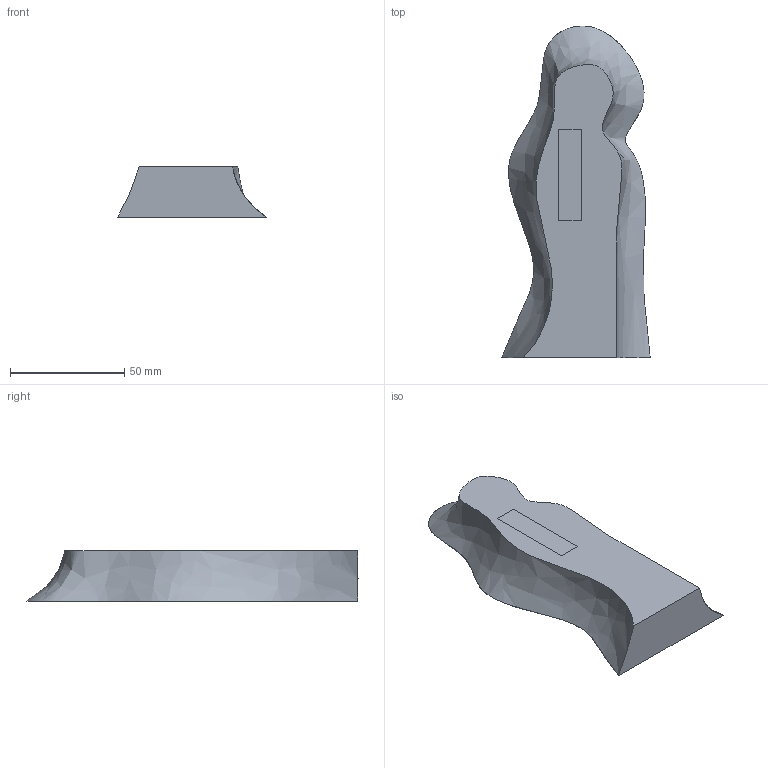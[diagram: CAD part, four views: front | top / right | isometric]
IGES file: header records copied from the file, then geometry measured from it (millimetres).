
Global section: file name: B_Ex_10_2; native system: AutoCAD 2016 - Español (Spanish),; preprocessor: Autodesk Translation Framework DWG producer (atf_dwg_producer); organization: unknown; date: 20200727.135918; units: millimetre
Bounding box: 65 x 145.42 x 22 mm (x, y, z)
Volume: 109613.3 mm3; surface area: 28407.1 mm2
Topology: 1 solids, 1 shells, 7 faces, 27 edges, 25 vertices
Faces by surface type: bspline 7
